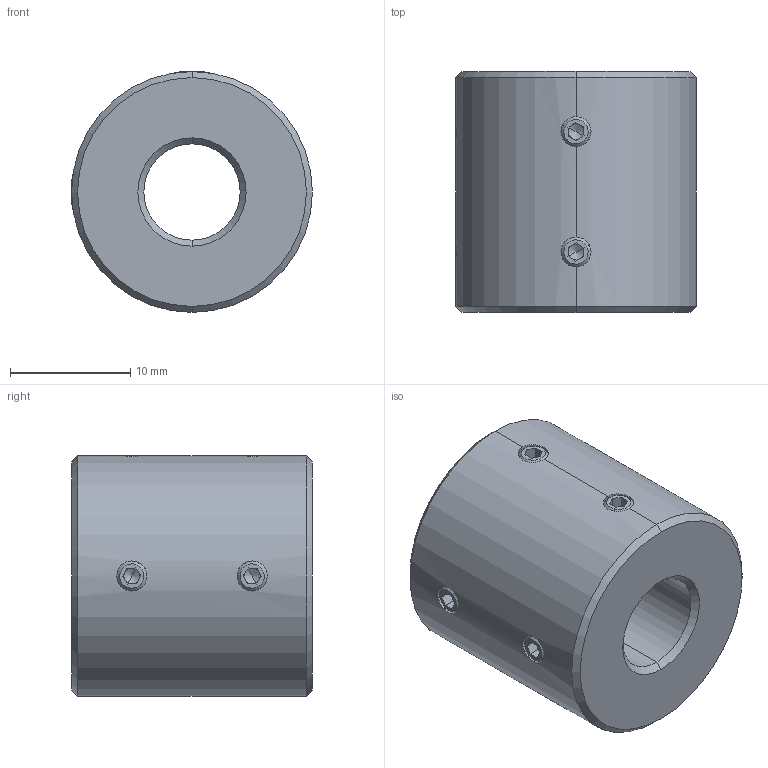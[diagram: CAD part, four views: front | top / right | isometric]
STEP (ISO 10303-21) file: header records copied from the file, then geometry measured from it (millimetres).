
FILE_DESCRIPTION (( 'STEP AP214' ), '1' );
FILE_NAME ('LL-D-D20L20-8-8.STEP', '2022-07-23T06:35:20', ( '' ), ( '' ), 'SwSTEP 2.0', 'SolidWorks 2022', '' );
FILE_SCHEMA (( 'AUTOMOTIVE_DESIGN' ));
Length unit declared in the file: millimetre
Products named in the file (1): LL-D-D20L20-8-8
Bounding box: 20 x 20 x 20 mm (x, y, z)
Volume: 5204.1 mm3; surface area: 2353.9 mm2
Topology: 1 solids, 1 shells, 110 faces, 280 edges, 172 vertices
Faces by surface type: plane 58, cone 32, cylinder 20
Entity records: 3558 total; most frequent: CARTESIAN_POINT 875, DIRECTION 566, ORIENTED_EDGE 544, EDGE_CURVE 272, AXIS2_PLACEMENT_3D 207, VERTEX_POINT 172, VECTOR 152, LINE 152
